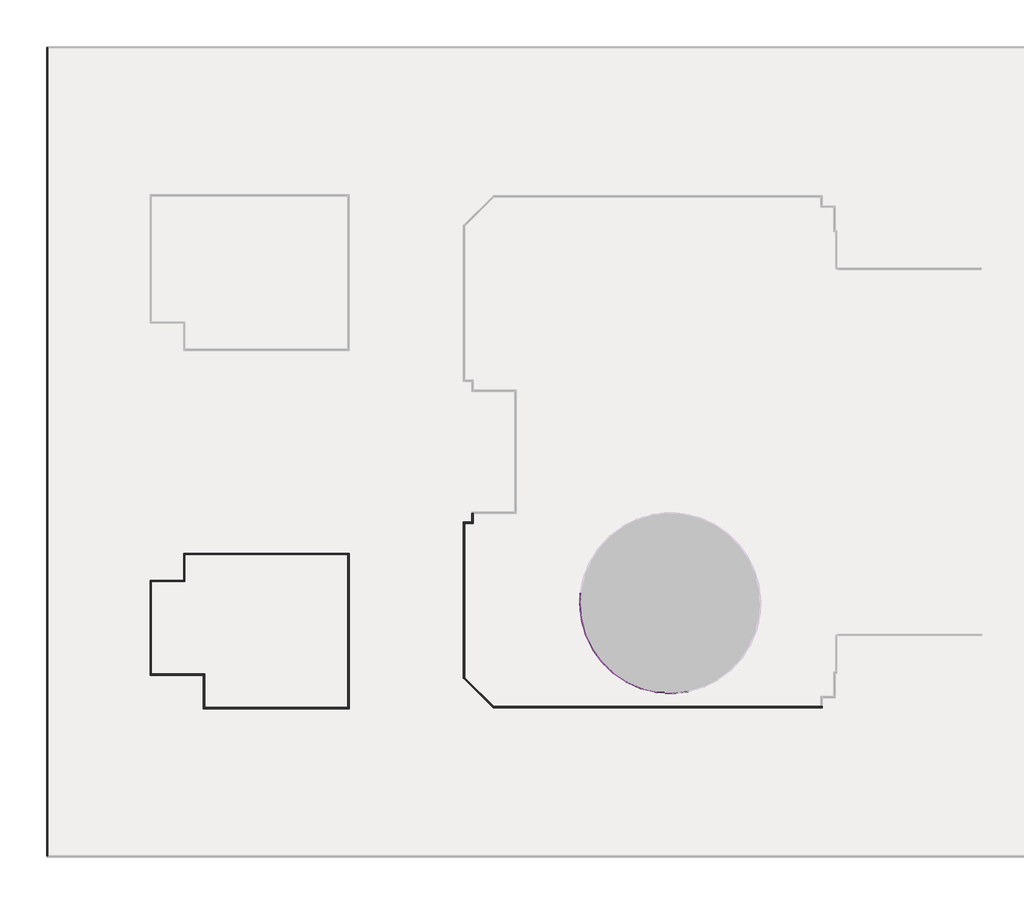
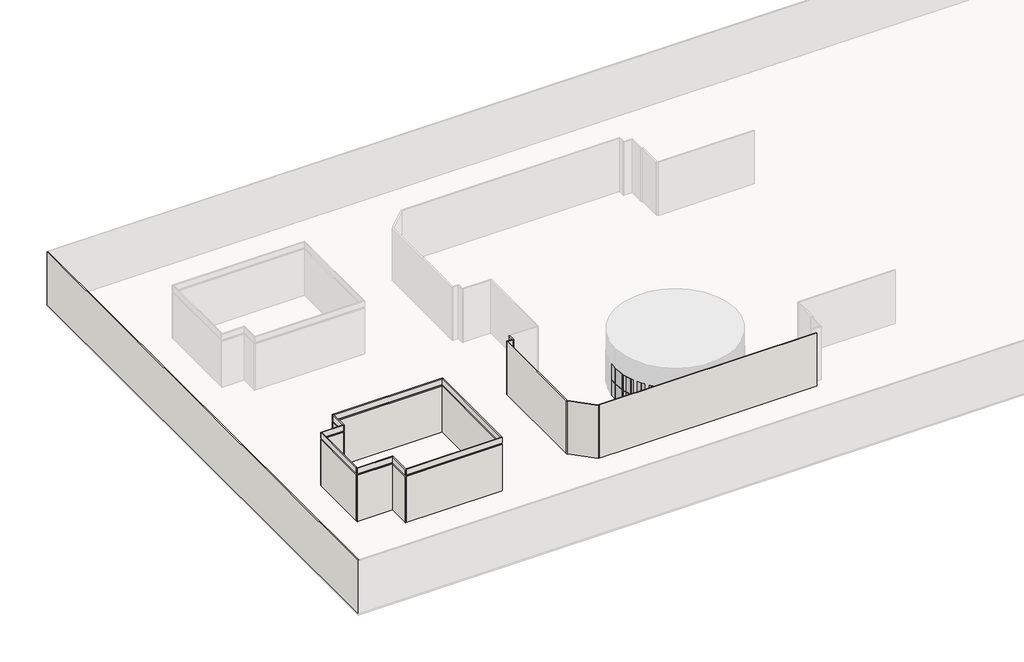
# One storey, part 1 of 4: 28 members, 22 plates, 14 walls.
"""IFC4 building model written with IfcOpenShell, lengths in millimetres."""

from ifc_helpers import new_model, si_unit, origin, place, context, project, spatial, faceted_brep, transform, mapped, element, save
from components import member_37831322, member_0f460398, member_e3690c8c, member_018dfd5b, plate_d439ce56, plate_01dbb522, plate_4c41d92a, plate_ebbde56a, plate_f02ba564, plate_a57f398c

model = new_model("IFC4")

# Units and contexts
model_context = context("Model", 3, world=origin())
ifc_project = project(units=[si_unit("LENGTHUNIT", "METRE", prefix="MILLI")], contexts=[model_context])

# Site, building, storey
site = spatial("IfcSite", under=ifc_project)
building = spatial("IfcBuilding", under=site)
storey = spatial("IfcBuildingStorey", under=building, Name="樓層 1", Elevation=0.0)

# Members
placement = place(None, origin())
member_shape = member_37831322(model_context)
element("IfcMember", 1, ObjectType="圓形豎框 : 25mm 半徑", at=placement, inside=storey, context=model_context, shape_type="MappedRepresentation", body=[
    mapped(member_shape, transform((-21690.7402424, -18858.604828, 2800.0), x_axis=(0.17664179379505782, -0.9842752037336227, 0.0), y_axis=(-0.9842752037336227, -0.17664179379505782, 0.0), z_axis=(0.0, 0.0, -1.0))),
])
element("IfcMember", 2, ObjectType="圓形豎框 : 25mm 半徑", at=placement, inside=storey, context=model_context, shape_type="MappedRepresentation", body=[
    mapped(member_shape, transform((-21216.9409052, -20595.1284207, 2800.0), x_axis=(0.3477282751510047, -0.9375953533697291, 0.0), y_axis=(-0.9375953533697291, -0.3477282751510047, 0.0), z_axis=(0.0, 0.0, -1.0))),
])
element("IfcMember", 3, ObjectType="圓形豎框 : 25mm 半徑", at=placement, inside=storey, context=model_context, shape_type="MappedRepresentation", body=[
    mapped(member_shape, transform((-20443.8493238, -22220.6527689, 2800.0), x_axis=(0.5078788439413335, -0.8614285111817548, 0.0), y_axis=(-0.8614285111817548, -0.5078788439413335, 0.0), z_axis=(0.0, 0.0, -1.0))),
])
element("IfcMember", 4, ObjectType="圓形豎框 : 25mm 半徑", at=placement, inside=storey, context=model_context, shape_type="MappedRepresentation", body=[
    mapped(member_shape, transform((-19395.7789131, -23684.0557942, 2800.0), x_axis=(0.6520568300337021, -0.7581700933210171, 0.0), y_axis=(-0.7581700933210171, -0.6520568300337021, 0.0), z_axis=(0.0, 0.0, -1.0))),
])
element("IfcMember", 5, ObjectType="圓形豎框 : 25mm 半徑", at=placement, inside=storey, context=model_context, shape_type="MappedRepresentation", body=[
    mapped(member_shape, transform((-18105.6910608, -24939.3140677, 2800.0), x_axis=(0.7757278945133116, -0.6310675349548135, 0.0), y_axis=(-0.6310675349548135, -0.7757278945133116, 0.0), z_axis=(0.0, 0.0, -1.0))),
])
element("IfcMember", 6, ObjectType="圓形豎框 : 25mm 半徑", at=placement, inside=storey, context=model_context, shape_type="MappedRepresentation", body=[
    mapped(member_shape, transform((-16614.158504, -25946.9502282, 2800.0), x_axis=(0.8750026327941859, -0.48411815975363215, 0.0), y_axis=(-0.48411815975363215, -0.8750026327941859, 0.0), z_axis=(0.0, 0.0, -1.0))),
])
element("IfcMember", 7, ObjectType="圓形豎框 : 25mm 半徑", at=placement, inside=storey, context=model_context, shape_type="MappedRepresentation", body=[
    mapped(member_shape, transform((-14968.0893339, -26675.2745291, 2800.0), x_axis=(0.9467588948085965, -0.32194346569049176, 0.0), y_axis=(-0.32194346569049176, -0.9467588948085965, 0.0), z_axis=(0.0, 0.0, -1.0))),
])
element("IfcMember", 8, ObjectType="圓形豎框 : 25mm 半徑", at=placement, inside=storey, context=model_context, shape_type="MappedRepresentation", body=[
    mapped(member_shape, transform((-13219.2517551, -27101.3814677, 2800.0), x_axis=(0.9887399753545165, -0.14964378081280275, 0.0), y_axis=(-0.14964378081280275, -0.9887399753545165, 0.0), z_axis=(0.0, 0.0, -1.0))),
])
element("IfcMember", 9, ObjectType="圓形豎框 : 25mm 半徑", at=placement, inside=storey, context=model_context, shape_type="MappedRepresentation", body=[
    mapped(member_shape, transform((-11422.645997, -27211.8701546, 2800.0), x_axis=(0.9996255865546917, 0.027362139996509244, 0.0), y_axis=(0.027362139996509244, -0.9996255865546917, 0.0), z_axis=(0.0, 0.0, -1.0))),
])
member_2_shape = member_0f460398(model_context)
element("IfcMember", 10, ObjectType="圓形豎框 : 25mm 半徑", at=placement, inside=storey, context=model_context, shape_type="MappedRepresentation", body=[
    mapped(member_2_shape, transform((-21223.5214516, -20571.0100375, 2800.0), x_axis=(0.0, 0.0, 1.0), y_axis=(-0.9647353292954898, -0.2632218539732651, 0.0), z_axis=(0.2632218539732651, -0.9647353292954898, 0.0))),
])
element("IfcMember", 11, ObjectType="圓形豎框 : 25mm 半徑", at=placement, inside=storey, context=model_context, shape_type="MappedRepresentation", body=[
    mapped(member_2_shape, transform((-20454.5867068, -22198.0760419, 2800.0), x_axis=(0.0, 0.0, 1.0), y_axis=(-0.9030690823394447, -0.42949532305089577, 0.0), z_axis=(0.42949532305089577, -0.9030690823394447, 0.0))),
])
element("IfcMember", 12, ObjectType="圓形豎框 : 25mm 半徑", at=placement, inside=storey, context=model_context, shape_type="MappedRepresentation", body=[
    mapped(member_2_shape, transform((-19410.3354466, -23663.7307522, 2800.0), x_axis=(0.0, 0.0, 1.0), y_axis=(-0.8130016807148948, -0.5822613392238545, 0.0), z_axis=(0.5822613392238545, -0.8130016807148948, 0.0))),
])
element("IfcMember", 13, ObjectType="圓形豎框 : 25mm 半徑", at=placement, inside=storey, context=model_context, shape_type="MappedRepresentation", body=[
    mapped(member_2_shape, transform((-18123.6089476, -24921.8799251, 2800.0), x_axis=(0.0, 0.0, 1.0), y_axis=(-0.6973657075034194, -0.7167154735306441, 0.0), z_axis=(0.716715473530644, -0.6973657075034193, 0.0))),
])
element("IfcMember", 14, ObjectType="圓形豎框 : 25mm 半徑", at=placement, inside=storey, context=model_context, shape_type="MappedRepresentation", body=[
    mapped(member_2_shape, transform((-16634.8742339, -25932.9552816, 2800.0), x_axis=(0.0, 0.0, 1.0), y_axis=(-0.559797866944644, -0.8286291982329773, 0.0), z_axis=(0.8286291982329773, -0.559797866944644, 0.0))),
])
element("IfcMember", 15, ObjectType="圓形豎框 : 25mm 半徑", at=placement, inside=storey, context=model_context, shape_type="MappedRepresentation", body=[
    mapped(member_2_shape, transform((-14990.9514057, -26665.1589138, 2800.0), x_axis=(0.0, 0.0, 1.0), y_axis=(-0.4046246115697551, -0.9144828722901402, 0.0), z_axis=(0.9144828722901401, -0.40462461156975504, 0.0))),
])
element("IfcMember", 16, ObjectType="圓形豎框 : 25mm 半徑", at=placement, inside=storey, context=model_context, shape_type="MappedRepresentation", body=[
    mapped(member_2_shape, transform((-13243.5411659, -27095.4633158, 2800.0), x_axis=(0.0, 0.0, 1.0), y_axis=(-0.23672607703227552, -0.9715764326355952, 0.0), z_axis=(0.9715764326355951, -0.2367260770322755, 0.0))),
])
element("IfcMember", 17, ObjectType="圓形豎框 : 25mm 半徑", at=placement, inside=storey, context=model_context, shape_type="MappedRepresentation", body=[
    mapped(member_2_shape, transform((-11447.5988548, -27210.3355895, 2800.0), x_axis=(0.0, 0.0, 1.0), y_axis=(-0.06138260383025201, -0.9981143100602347, 0.0), z_axis=(0.9981143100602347, -0.06138260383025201, 0.0))),
])
element("IfcMember", 18, ObjectType="圓形豎框 : 25mm 半徑", at=placement, inside=storey, context=model_context, shape_type="MappedRepresentation", body=[
    mapped(member_shape, transform((-21690.7402424, -18858.604828, 0.0), x_axis=(0.17664179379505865, -0.9842752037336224, 0.0), y_axis=(-0.9842752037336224, -0.17664179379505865, 0.0), z_axis=(0.0, 0.0, -1.0))),
])
element("IfcMember", 19, ObjectType="圓形豎框 : 25mm 半徑", at=placement, inside=storey, context=model_context, shape_type="MappedRepresentation", body=[
    mapped(member_shape, transform((-21216.9409052, -20595.1284207, 0.0), x_axis=(0.3477282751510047, -0.9375953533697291, 0.0), y_axis=(-0.9375953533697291, -0.3477282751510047, 0.0), z_axis=(0.0, 0.0, -1.0))),
])
element("IfcMember", 20, ObjectType="圓形豎框 : 25mm 半徑", at=placement, inside=storey, context=model_context, shape_type="MappedRepresentation", body=[
    mapped(member_shape, transform((-20443.8493238, -22220.6527689, 0.0), x_axis=(0.5078788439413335, -0.8614285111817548, 0.0), y_axis=(-0.8614285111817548, -0.5078788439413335, 0.0), z_axis=(0.0, 0.0, -1.0))),
])
element("IfcMember", 21, ObjectType="圓形豎框 : 25mm 半徑", at=placement, inside=storey, context=model_context, shape_type="MappedRepresentation", body=[
    mapped(member_shape, transform((-19395.7789131, -23684.0557942, 0.0), x_axis=(0.6520568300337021, -0.7581700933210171, 0.0), y_axis=(-0.7581700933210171, -0.6520568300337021, 0.0), z_axis=(0.0, 0.0, -1.0))),
])
element("IfcMember", 22, ObjectType="圓形豎框 : 25mm 半徑", at=placement, inside=storey, context=model_context, shape_type="MappedRepresentation", body=[
    mapped(member_shape, transform((-18105.6910608, -24939.3140677, 0.0), x_axis=(0.7757278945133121, -0.6310675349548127, 0.0), y_axis=(-0.6310675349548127, -0.7757278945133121, 0.0), z_axis=(0.0, 0.0, -1.0))),
])
element("IfcMember", 23, ObjectType="圓形豎框 : 25mm 半徑", at=placement, inside=storey, context=model_context, shape_type="MappedRepresentation", body=[
    mapped(member_shape, transform((-16614.158504, -25946.9502282, 0.0), x_axis=(0.8750026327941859, -0.48411815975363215, 0.0), y_axis=(-0.48411815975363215, -0.8750026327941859, 0.0), z_axis=(0.0, 0.0, -1.0))),
])
element("IfcMember", 24, ObjectType="圓形豎框 : 25mm 半徑", at=placement, inside=storey, context=model_context, shape_type="MappedRepresentation", body=[
    mapped(member_shape, transform((-14968.0893339, -26675.2745291, 0.0), x_axis=(0.9467588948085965, -0.32194346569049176, 0.0), y_axis=(-0.32194346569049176, -0.9467588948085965, 0.0), z_axis=(0.0, 0.0, -1.0))),
])
element("IfcMember", 25, ObjectType="圓形豎框 : 25mm 半徑", at=placement, inside=storey, context=model_context, shape_type="MappedRepresentation", body=[
    mapped(member_shape, transform((-13219.2517551, -27101.3814677, 0.0), x_axis=(0.9887399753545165, -0.14964378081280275, 0.0), y_axis=(-0.14964378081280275, -0.9887399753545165, 0.0), z_axis=(0.0, 0.0, -1.0))),
])
element("IfcMember", 26, ObjectType="圓形豎框 : 25mm 半徑", at=placement, inside=storey, context=model_context, shape_type="MappedRepresentation", body=[
    mapped(member_shape, transform((-11422.645997, -27211.8701546, 0.0), x_axis=(0.9996255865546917, 0.027362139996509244, 0.0), y_axis=(0.027362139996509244, -0.9996255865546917, 0.0), z_axis=(0.0, 0.0, -1.0))),
])
member_3_shape = member_e3690c8c(model_context)
element("IfcMember", 27, ObjectType="圓形豎框 : 25mm 半徑", at=placement, inside=storey, context=model_context, shape_type="MappedRepresentation", body=[
    mapped(member_3_shape, transform((-21692.9569965, -18833.7033019, 2800.0), x_axis=(0.0, 0.0, 1.0), y_axis=(-0.9960610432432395, -0.08867016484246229, 0.0), z_axis=(0.08867016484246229, -0.9960610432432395, 0.0))),
])
member_4_shape = member_018dfd5b(model_context)
element("IfcMember", 28, ObjectType="圓形豎框 : 25mm 半徑", at=placement, inside=storey, context=model_context, shape_type="MappedRepresentation", body=[
    mapped(member_4_shape, transform((-21850.3465391, -17065.6949502, 2800.0), x_axis=(0.0, 0.0, 1.0), y_axis=(-0.9981143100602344, 0.06138260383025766, 0.0), z_axis=(-0.06138260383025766, -0.9981143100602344, 0.0))),
])

# Plates
plate_shape = plate_d439ce56(model_context)
element("IfcPlate", 29, ObjectType="系統嵌板 : 玻璃 1.0cm", at=placement, inside=storey, context=model_context, shape_type="MappedRepresentation", body=[
    mapped(plate_shape, transform((-21771.6517678, -17949.699126, 0.0), x_axis=(0.08867016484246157, -0.9960610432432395, 0.0), y_axis=(0.9960610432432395, 0.08867016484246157, 0.0), z_axis=(0.0, 0.0, 1.0))),
])
plate_2_shape = plate_01dbb522(model_context)
element("IfcPlate", 30, ObjectType="系統嵌板 : 玻璃 1.0cm", at=placement, inside=storey, context=model_context, shape_type="MappedRepresentation", body=[
    mapped(plate_2_shape, transform((-21453.8405738, -19726.8666244, 0.0), x_axis=(0.2632218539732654, -0.9647353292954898, 0.0), y_axis=(0.9647353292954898, 0.2632218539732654, 0.0), z_axis=(0.0, 0.0, 1.0))),
])
element("IfcPlate", 31, ObjectType="系統嵌板 : 玻璃 1.0cm", at=placement, inside=storey, context=model_context, shape_type="MappedRepresentation", body=[
    mapped(plate_2_shape, transform((-20830.3951145, -21407.8905948, 0.0), x_axis=(0.42949532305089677, -0.9030690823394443, 0.0), y_axis=(0.9030690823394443, 0.42949532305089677, 0.0), z_axis=(0.0, 0.0, 1.0))),
])
element("IfcPlate", 32, ObjectType="系統嵌板 : 玻璃 1.0cm", at=placement, inside=storey, context=model_context, shape_type="MappedRepresentation", body=[
    mapped(plate_2_shape, transform((-19919.8141184, -22952.3542816, 0.0), x_axis=(0.5822613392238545, -0.8130016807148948, 0.0), y_axis=(0.8130016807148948, 0.5822613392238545, 0.0), z_axis=(0.0, 0.0, 1.0))),
])
element("IfcPlate", 33, ObjectType="系統嵌板 : 玻璃 1.0cm", at=placement, inside=storey, context=model_context, shape_type="MappedRepresentation", body=[
    mapped(plate_2_shape, transform((-18750.734987, -24311.684931, 0.0), x_axis=(0.7167154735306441, -0.6973657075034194, 0.0), y_axis=(0.6973657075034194, 0.7167154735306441, 0.0), z_axis=(0.0, 0.0, 1.0))),
])
element("IfcPlate", 34, ObjectType="系統嵌板 : 玻璃 1.0cm", at=placement, inside=storey, context=model_context, shape_type="MappedRepresentation", body=[
    mapped(plate_2_shape, transform((-17359.9247824, -25443.132148, 0.0), x_axis=(0.8286291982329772, -0.5597978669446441, 0.0), y_axis=(0.5597978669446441, 0.8286291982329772, 0.0), z_axis=(0.0, 0.0, 1.0))),
])
element("IfcPlate", 35, ObjectType="系統嵌板 : 玻璃 1.0cm", at=placement, inside=storey, context=model_context, shape_type="MappedRepresentation", body=[
    mapped(plate_2_shape, transform((-15791.1239189, -26311.1123787, 0.0), x_axis=(0.9144828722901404, -0.4046246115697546, 0.0), y_axis=(0.4046246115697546, 0.9144828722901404, 0.0), z_axis=(0.0, 0.0, 1.0))),
])
element("IfcPlate", 36, ObjectType="系統嵌板 : 玻璃 1.0cm", at=placement, inside=storey, context=model_context, shape_type="MappedRepresentation", body=[
    mapped(plate_2_shape, transform((-14093.6705445, -26888.3279984, 0.0), x_axis=(0.9715764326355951, -0.2367260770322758, 0.0), y_axis=(0.2367260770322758, 0.9715764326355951, 0.0), z_axis=(0.0, 0.0, 1.0))),
])
element("IfcPlate", 37, ObjectType="系統嵌板 : 玻璃 1.0cm", at=placement, inside=storey, context=model_context, shape_type="MappedRepresentation", body=[
    mapped(plate_2_shape, transform((-12320.9488761, -27156.6258112, 0.0), x_axis=(0.9981143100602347, -0.061382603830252, 0.0), y_axis=(0.061382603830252, 0.9981143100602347, 0.0), z_axis=(0.0, 0.0, 1.0))),
])
element("IfcPlate", 38, ObjectType="系統嵌板 : 玻璃 1.0cm", at=placement, inside=storey, context=model_context, shape_type="MappedRepresentation", body=[
    mapped(plate_2_shape, transform((-10528.7102878, -27107.5679601, 0.0), x_axis=(0.9932618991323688, 0.11589132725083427, 0.0), y_axis=(-0.11589132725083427, 0.9932618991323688, 0.0), z_axis=(0.0, 0.0, 1.0))),
])
plate_3_shape = plate_4c41d92a(model_context)
element("IfcPlate", 39, ObjectType="系統嵌板 : 玻璃 1.0cm", at=placement, inside=storey, context=model_context, shape_type="MappedRepresentation", body=[
    mapped(plate_3_shape, transform((-21812.8704999, -16456.3142996, 0.0), x_axis=(-0.061382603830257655, -0.9981143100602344, 0.0), y_axis=(0.9981143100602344, -0.061382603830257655, 0.0), z_axis=(0.0, 0.0, 1.0))),
])
plate_4_shape = plate_ebbde56a(model_context)
element("IfcPlate", 40, ObjectType="系統嵌板 : 玻璃 1.0cm", at=placement, inside=storey, context=model_context, shape_type="MappedRepresentation", body=[
    mapped(plate_4_shape, transform((-21771.6517678, -17949.699126, 2825.0), x_axis=(0.08867016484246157, -0.9960610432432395, 0.0), y_axis=(0.9960610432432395, 0.08867016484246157, 0.0), z_axis=(0.0, 0.0, 1.0))),
])
plate_5_shape = plate_f02ba564(model_context)
element("IfcPlate", 41, ObjectType="系統嵌板 : 玻璃 1.0cm", at=placement, inside=storey, context=model_context, shape_type="MappedRepresentation", body=[
    mapped(plate_5_shape, transform((-21453.8405738, -19726.8666244, 2825.0), x_axis=(0.2632218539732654, -0.9647353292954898, 0.0), y_axis=(0.9647353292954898, 0.2632218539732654, 0.0), z_axis=(0.0, 0.0, 1.0))),
])
element("IfcPlate", 42, ObjectType="系統嵌板 : 玻璃 1.0cm", at=placement, inside=storey, context=model_context, shape_type="MappedRepresentation", body=[
    mapped(plate_5_shape, transform((-20830.3951145, -21407.8905948, 2825.0), x_axis=(0.42949532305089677, -0.9030690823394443, 0.0), y_axis=(0.9030690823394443, 0.42949532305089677, 0.0), z_axis=(0.0, 0.0, 1.0))),
])
element("IfcPlate", 43, ObjectType="系統嵌板 : 玻璃 1.0cm", at=placement, inside=storey, context=model_context, shape_type="MappedRepresentation", body=[
    mapped(plate_5_shape, transform((-19919.8141184, -22952.3542816, 2825.0), x_axis=(0.5822613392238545, -0.8130016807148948, 0.0), y_axis=(0.8130016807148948, 0.5822613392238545, 0.0), z_axis=(0.0, 0.0, 1.0))),
])
element("IfcPlate", 44, ObjectType="系統嵌板 : 玻璃 1.0cm", at=placement, inside=storey, context=model_context, shape_type="MappedRepresentation", body=[
    mapped(plate_5_shape, transform((-18750.734987, -24311.684931, 2825.0), x_axis=(0.7167154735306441, -0.6973657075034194, 0.0), y_axis=(0.6973657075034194, 0.7167154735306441, 0.0), z_axis=(0.0, 0.0, 1.0))),
])
element("IfcPlate", 45, ObjectType="系統嵌板 : 玻璃 1.0cm", at=placement, inside=storey, context=model_context, shape_type="MappedRepresentation", body=[
    mapped(plate_5_shape, transform((-17359.9247824, -25443.132148, 2825.0), x_axis=(0.8286291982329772, -0.5597978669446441, 0.0), y_axis=(0.5597978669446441, 0.8286291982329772, 0.0), z_axis=(0.0, 0.0, 1.0))),
])
element("IfcPlate", 46, ObjectType="系統嵌板 : 玻璃 1.0cm", at=placement, inside=storey, context=model_context, shape_type="MappedRepresentation", body=[
    mapped(plate_5_shape, transform((-15791.1239189, -26311.1123787, 2825.0), x_axis=(0.9144828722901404, -0.4046246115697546, 0.0), y_axis=(0.4046246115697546, 0.9144828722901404, 0.0), z_axis=(0.0, 0.0, 1.0))),
])
element("IfcPlate", 47, ObjectType="系統嵌板 : 玻璃 1.0cm", at=placement, inside=storey, context=model_context, shape_type="MappedRepresentation", body=[
    mapped(plate_5_shape, transform((-14093.6705445, -26888.3279984, 2825.0), x_axis=(0.9715764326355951, -0.2367260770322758, 0.0), y_axis=(0.2367260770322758, 0.9715764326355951, 0.0), z_axis=(0.0, 0.0, 1.0))),
])
element("IfcPlate", 48, ObjectType="系統嵌板 : 玻璃 1.0cm", at=placement, inside=storey, context=model_context, shape_type="MappedRepresentation", body=[
    mapped(plate_5_shape, transform((-12320.9488761, -27156.6258112, 2825.0), x_axis=(0.9981143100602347, -0.061382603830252, 0.0), y_axis=(0.061382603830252, 0.9981143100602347, 0.0), z_axis=(0.0, 0.0, 1.0))),
])
element("IfcPlate", 49, ObjectType="系統嵌板 : 玻璃 1.0cm", at=placement, inside=storey, context=model_context, shape_type="MappedRepresentation", body=[
    mapped(plate_5_shape, transform((-10528.7102878, -27107.5679601, 2825.0), x_axis=(0.9932618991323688, 0.11589132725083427, 0.0), y_axis=(-0.11589132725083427, 0.9932618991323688, 0.0), z_axis=(0.0, 0.0, 1.0))),
])
plate_6_shape = plate_a57f398c(model_context)
element("IfcPlate", 50, ObjectType="系統嵌板 : 玻璃 1.0cm", at=placement, inside=storey, context=model_context, shape_type="MappedRepresentation", body=[
    mapped(plate_6_shape, transform((-21812.8704999, -16456.3142996, 2825.0), x_axis=(-0.061382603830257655, -0.9981143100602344, 0.0), y_axis=(0.9981143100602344, -0.061382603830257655, 0.0), z_axis=(0.0, 0.0, 1.0))),
])

# Walls
element("IfcWall", 51, ObjectType="RC 牆 15cm", at=placement, inside=storey, context=model_context, shape_type="Brep", body=[
    faceted_brep([(-81591.2230426, -45467.0932876, 0.0), (-81591.2230426, 45327.9067124, 0.0), (-81591.2230426, 45327.9067124, 4250.0), (-81591.2230426, 45327.9067124, 4500.0), (-81591.2230426, 45327.9067124, 8250.0), (-81591.2230426, 45327.9067124, 8500.0), (-81591.2230426, 45327.9067124, 9500.0), (-81591.2230426, -45467.0932876, 9500.0), (-81591.2230426, -45467.0932876, 8500.0), (-81591.2230426, -45467.0932876, 8250.0), (-81591.2230426, -45467.0932876, 4500.0), (-81591.2230426, -45467.0932876, 4250.0), (-81741.2230426, -45467.0932876, 0.0), (-81741.2230426, -45467.0932876, 9500.0), (-81741.2230426, 45327.9067124, 9500.0), (-81741.2230426, 45327.9067124, 0.0)], [[[0, 1, 2, 3, 4, 5, 6, 7, 8, 9, 10, 11]], [[12, 13, 14, 15]], [[1, 0, 12, 15]], [[7, 6, 14, 13]], [[0, 11, 10, 9, 8, 7, 13, 12]], [[6, 5, 4, 3, 2, 1, 15, 14]]]),
])
element("IfcWall", 52, ObjectType="RC 牆 15cm", at=placement, inside=storey, context=model_context, shape_type="Brep", body=[
    faceted_brep([(-66356.2230426, -11601.5828624, 0.0), (-66356.2230426, -14494.0932876, 0.0), (-66356.2230426, -14644.0932876, 0.0), (-66356.2230426, -14644.0932876, 8250.0), (-66356.2230426, -14494.0932876, 8250.0), (-66356.2230426, -11601.5828624, 8250.0), (-66356.2230426, -11601.5828624, 4500.0), (-66356.2230426, -11601.5828624, 4250.0), (-66206.2230426, -14644.0932876, 0.0), (-66206.2230426, -11601.5828624, 0.0), (-66206.2230426, -11601.5828624, 8250.0), (-66206.2230426, -14644.0932876, 8250.0)], [[[0, 1, 2, 3, 4, 5, 6, 7]], [[8, 9, 10, 11]], [[2, 1, 0, 9, 8]], [[2, 8, 11, 3]], [[9, 0, 7, 6, 5, 10]], [[5, 4, 3, 11, 10]]]),
    faceted_brep([(-66356.2230426, -14644.0932876, 9500.0), (-66356.2230426, -14494.0932876, 9500.0), (-66356.2230426, -11601.5828624, 9500.0), (-66356.2230426, -11601.5828624, 8500.0), (-66356.2230426, -14494.0932876, 8500.0), (-66356.2230426, -14644.0932876, 8500.0), (-66206.2230426, -11601.5828624, 9500.0), (-66206.2230426, -14644.0932876, 9500.0), (-66206.2230426, -14644.0932876, 8500.0), (-66206.2230426, -11601.5828624, 8500.0)], [[[0, 1, 2, 3, 4, 5]], [[6, 7, 8, 9]], [[2, 1, 0, 7, 6]], [[7, 0, 5, 8]], [[2, 6, 9, 3]], [[5, 4, 3, 9, 8]]]),
])
element("IfcWall", 53, ObjectType="RC 牆 15cm", at=placement, inside=storey, context=model_context, shape_type="Brep", body=[
    faceted_brep([(-66356.2230426, -14494.0932876, 0.0), (-70116.2230426, -14494.0932876, 0.0), (-70116.2230426, -14494.0932876, 4250.0), (-70116.2230426, -14494.0932876, 4500.0), (-70116.2230426, -14494.0932876, 8250.0), (-66356.2230426, -14494.0932876, 8250.0), (-66356.2230426, -14494.0932876, 4500.0), (-66356.2230426, -14494.0932876, 4250.0), (-70116.2230426, -14644.0932876, 0.0), (-69966.2230426, -14644.0932876, 0.0), (-66356.2230426, -14644.0932876, 0.0), (-66356.2230426, -14644.0932876, 8250.0), (-69966.2230426, -14644.0932876, 8250.0), (-70116.2230426, -14644.0932876, 8250.0), (-70116.2230426, -14644.0932876, 4500.0), (-70116.2230426, -14644.0932876, 4250.0)], [[[0, 1, 2, 3, 4, 5, 6, 7]], [[8, 9, 10, 11, 12, 13, 14, 15]], [[1, 0, 10, 9, 8]], [[10, 0, 7, 6, 5, 11]], [[1, 8, 15, 14, 13, 4, 3, 2]], [[5, 4, 13, 12, 11]]]),
    faceted_brep([(-70116.2230426, -14494.0932876, 9500.0), (-66356.2230426, -14494.0932876, 9500.0), (-66356.2230426, -14494.0932876, 8500.0), (-70116.2230426, -14494.0932876, 8500.0), (-66356.2230426, -14644.0932876, 9500.0), (-69966.2230426, -14644.0932876, 9500.0), (-70116.2230426, -14644.0932876, 9500.0), (-70116.2230426, -14644.0932876, 8500.0), (-69966.2230426, -14644.0932876, 8500.0), (-66356.2230426, -14644.0932876, 8500.0)], [[[0, 1, 2, 3]], [[4, 5, 6, 7, 8, 9]], [[1, 0, 6, 5, 4]], [[1, 4, 9, 2]], [[6, 0, 3, 7]], [[3, 2, 9, 8, 7]]]),
])
element("IfcWall", 54, ObjectType="RC 牆 15cm", at=placement, inside=storey, context=model_context, shape_type="Brep", body=[
    faceted_brep([(-70116.2230426, -14644.0932876, 0.0), (-70116.2230426, -25005.0932876, 0.0), (-70116.2230426, -25005.0932876, 4250.0), (-70116.2230426, -25005.0932876, 4500.0), (-70116.2230426, -25005.0932876, 8250.0), (-70116.2230426, -14644.0932876, 8250.0), (-70116.2230426, -14644.0932876, 4500.0), (-70116.2230426, -14644.0932876, 4250.0), (-69966.2230426, -25005.0932876, 0.0), (-69966.2230426, -14644.0932876, 0.0), (-69966.2230426, -14644.0932876, 8250.0), (-69966.2230426, -25005.0932876, 8250.0)], [[[0, 1, 2, 3, 4, 5, 6, 7]], [[8, 9, 10, 11]], [[1, 0, 9, 8]], [[9, 0, 7, 6, 5, 10]], [[1, 8, 11, 4, 3, 2]], [[5, 4, 11, 10]]]),
    faceted_brep([(-70116.2230426, -25005.0932876, 9500.0), (-70116.2230426, -14644.0932876, 9500.0), (-70116.2230426, -14644.0932876, 8500.0), (-70116.2230426, -25005.0932876, 8500.0), (-69966.2230426, -14644.0932876, 9500.0), (-69966.2230426, -25005.0932876, 9500.0), (-69966.2230426, -25005.0932876, 8500.0), (-69966.2230426, -14644.0932876, 8500.0)], [[[0, 1, 2, 3]], [[4, 5, 6, 7]], [[1, 0, 5, 4]], [[1, 4, 7, 2]], [[5, 0, 3, 6]], [[3, 2, 7, 6]]]),
])
element("IfcWall", 55, ObjectType="RC 牆 15cm", at=placement, inside=storey, context=model_context, shape_type="Brep", body=[
    faceted_brep([(-63996.109987, -25005.0932876, 0.0), (-69966.2230426, -25005.0932876, 0.0), (-70116.2230426, -25005.0932876, 0.0), (-70116.2230426, -25005.0932876, 4250.0), (-70116.2230426, -25005.0932876, 4500.0), (-70116.2230426, -25005.0932876, 8250.0), (-69966.2230426, -25005.0932876, 8250.0), (-63996.109987, -25005.0932876, 8250.0), (-70116.2230426, -25155.0932876, 0.0), (-64146.109987, -25155.0932876, 0.0), (-63996.109987, -25155.0932876, 0.0), (-63996.109987, -25155.0932876, 8250.0), (-64146.109987, -25155.0932876, 8250.0), (-70116.2230426, -25155.0932876, 8250.0), (-70116.2230426, -25155.0932876, 4500.0), (-70116.2230426, -25155.0932876, 4250.0)], [[[0, 1, 2, 3, 4, 5, 6, 7]], [[8, 9, 10, 11, 12, 13, 14, 15]], [[2, 1, 0, 10, 9, 8]], [[10, 0, 7, 11]], [[2, 8, 15, 14, 13, 5, 4, 3]], [[6, 5, 13, 12, 11, 7]]]),
    faceted_brep([(-70116.2230426, -25005.0932876, 9500.0), (-69966.2230426, -25005.0932876, 9500.0), (-63996.109987, -25005.0932876, 9500.0), (-63996.109987, -25005.0932876, 8500.0), (-69966.2230426, -25005.0932876, 8500.0), (-70116.2230426, -25005.0932876, 8500.0), (-63996.109987, -25155.0932876, 9500.0), (-64146.109987, -25155.0932876, 9500.0), (-70116.2230426, -25155.0932876, 9500.0), (-70116.2230426, -25155.0932876, 8500.0), (-64146.109987, -25155.0932876, 8500.0), (-63996.109987, -25155.0932876, 8500.0)], [[[0, 1, 2, 3, 4, 5]], [[6, 7, 8, 9, 10, 11]], [[2, 1, 0, 8, 7, 6]], [[2, 6, 11, 3]], [[8, 0, 5, 9]], [[5, 4, 3, 11, 10, 9]]]),
])
element("IfcWall", 56, ObjectType="RC 牆 15cm", at=placement, inside=storey, context=model_context, shape_type="Brep", body=[
    faceted_brep([(-63996.109987, -28942.0932876, 0.0), (-63996.109987, -28792.0932876, 0.0), (-63996.109987, -25155.0932876, 0.0), (-63996.109987, -25155.0932876, 8250.0), (-63996.109987, -28792.0932876, 8250.0), (-63996.109987, -28942.0932876, 8250.0), (-63996.109987, -28942.0932876, 4500.0), (-63996.109987, -28942.0932876, 4250.0), (-64146.109987, -25155.0932876, 0.0), (-64146.109987, -28942.0932876, 0.0), (-64146.109987, -28942.0932876, 4250.0), (-64146.109987, -28942.0932876, 4500.0), (-64146.109987, -28942.0932876, 8250.0), (-64146.109987, -25155.0932876, 8250.0), (-64146.109987, -25155.0932876, 4500.0), (-64146.109987, -25155.0932876, 4250.0)], [[[0, 1, 2, 3, 4, 5, 6, 7]], [[8, 9, 10, 11, 12, 13, 14, 15]], [[2, 1, 0, 9, 8]], [[2, 8, 15, 14, 13, 3]], [[9, 0, 7, 6, 5, 12, 11, 10]], [[4, 3, 13, 12, 5]]]),
    faceted_brep([(-63996.109987, -25155.0932876, 9500.0), (-63996.109987, -28792.0932876, 9500.0), (-63996.109987, -28942.0932876, 9500.0), (-63996.109987, -28942.0932876, 8500.0), (-63996.109987, -28792.0932876, 8500.0), (-63996.109987, -25155.0932876, 8500.0), (-64146.109987, -28942.0932876, 9500.0), (-64146.109987, -25155.0932876, 9500.0), (-64146.109987, -25155.0932876, 8500.0), (-64146.109987, -28942.0932876, 8500.0)], [[[0, 1, 2, 3, 4, 5]], [[6, 7, 8, 9]], [[2, 1, 0, 7, 6]], [[7, 0, 5, 8]], [[2, 6, 9, 3]], [[5, 4, 3, 9, 8]]]),
])
element("IfcWall", 57, ObjectType="RC 牆 15cm", at=placement, inside=storey, context=model_context, shape_type="Brep", body=[
    faceted_brep([(-63996.109987, -28942.0932876, 0.0), (-47776.2230426, -28942.0932876, 0.0), (-47776.2230426, -28942.0932876, 4250.0), (-47776.2230426, -28942.0932876, 4500.0), (-47776.2230426, -28942.0932876, 8250.0), (-63996.109987, -28942.0932876, 8250.0), (-63996.109987, -28942.0932876, 4500.0), (-63996.109987, -28942.0932876, 4250.0), (-47776.2230426, -28792.0932876, 0.0), (-47926.2230426, -28792.0932876, 0.0), (-63996.109987, -28792.0932876, 0.0), (-63996.109987, -28792.0932876, 8250.0), (-47926.2230426, -28792.0932876, 8250.0), (-47776.2230426, -28792.0932876, 8250.0), (-47776.2230426, -28792.0932876, 4500.0), (-47776.2230426, -28792.0932876, 4250.0)], [[[0, 1, 2, 3, 4, 5, 6, 7]], [[8, 9, 10, 11, 12, 13, 14, 15]], [[1, 0, 10, 9, 8]], [[1, 8, 15, 14, 13, 4, 3, 2]], [[10, 0, 7, 6, 5, 11]], [[5, 4, 13, 12, 11]]]),
    faceted_brep([(-47776.2230426, -28942.0932876, 9500.0), (-63996.109987, -28942.0932876, 9500.0), (-63996.109987, -28942.0932876, 8500.0), (-47776.2230426, -28942.0932876, 8500.0), (-63996.109987, -28792.0932876, 9500.0), (-47926.2230426, -28792.0932876, 9500.0), (-47776.2230426, -28792.0932876, 9500.0), (-47776.2230426, -28792.0932876, 8500.0), (-47926.2230426, -28792.0932876, 8500.0), (-63996.109987, -28792.0932876, 8500.0)], [[[0, 1, 2, 3]], [[4, 5, 6, 7, 8, 9]], [[1, 0, 6, 5, 4]], [[6, 0, 3, 7]], [[1, 4, 9, 2]], [[3, 2, 9, 8, 7]]]),
])
element("IfcWall", 58, ObjectType="RC 牆 15cm", at=placement, inside=storey, context=model_context, shape_type="Brep", body=[
    faceted_brep([(-47776.2230426, -28792.0932876, 0.0), (-47776.2230426, -11601.5828624, 0.0), (-47776.2230426, -11601.5828624, 4250.0), (-47776.2230426, -11601.5828624, 4500.0), (-47776.2230426, -11601.5828624, 8250.0), (-47776.2230426, -28792.0932876, 8250.0), (-47776.2230426, -28792.0932876, 4500.0), (-47776.2230426, -28792.0932876, 4250.0), (-47926.2230426, -11601.5828624, 0.0), (-47926.2230426, -28792.0932876, 0.0), (-47926.2230426, -28792.0932876, 8250.0), (-47926.2230426, -11601.5828624, 8250.0)], [[[0, 1, 2, 3, 4, 5, 6, 7]], [[8, 9, 10, 11]], [[1, 0, 9, 8]], [[9, 0, 7, 6, 5, 10]], [[1, 8, 11, 4, 3, 2]], [[5, 4, 11, 10]]]),
    faceted_brep([(-47776.2230426, -11601.5828624, 9500.0), (-47776.2230426, -28792.0932876, 9500.0), (-47776.2230426, -28792.0932876, 8500.0), (-47776.2230426, -11601.5828624, 8500.0), (-47926.2230426, -28792.0932876, 9500.0), (-47926.2230426, -11601.5828624, 9500.0), (-47926.2230426, -11601.5828624, 8500.0), (-47926.2230426, -28792.0932876, 8500.0)], [[[0, 1, 2, 3]], [[4, 5, 6, 7]], [[1, 0, 5, 4]], [[1, 4, 7, 2]], [[5, 0, 3, 6]], [[3, 2, 7, 6]]]),
])
element("IfcWall", 59, ObjectType="RC 牆 15cm", at=placement, inside=storey, context=model_context, shape_type="Brep", body=[
    faceted_brep([(-47776.2230426, -11451.5828624, 0.0), (-66356.2230426, -11451.5828624, 0.0), (-66356.2230426, -11451.5828624, 4250.0), (-66356.2230426, -11451.5828624, 4500.0), (-66356.2230426, -11451.5828624, 8250.0), (-47776.2230426, -11451.5828624, 8250.0), (-47776.2230426, -11451.5828624, 4500.0), (-47776.2230426, -11451.5828624, 4250.0), (-66356.2230426, -11601.5828624, 0.0), (-66206.2230426, -11601.5828624, 0.0), (-47926.2230426, -11601.5828624, 0.0), (-47776.2230426, -11601.5828624, 0.0), (-47776.2230426, -11601.5828624, 4250.0), (-47776.2230426, -11601.5828624, 4500.0), (-47776.2230426, -11601.5828624, 8250.0), (-47926.2230426, -11601.5828624, 8250.0), (-66206.2230426, -11601.5828624, 8250.0), (-66356.2230426, -11601.5828624, 8250.0), (-66356.2230426, -11601.5828624, 4500.0), (-66356.2230426, -11601.5828624, 4250.0)], [[[0, 1, 2, 3, 4, 5, 6, 7]], [[8, 9, 10, 11, 12, 13, 14, 15, 16, 17, 18, 19]], [[1, 0, 11, 10, 9, 8]], [[1, 8, 19, 18, 17, 4, 3, 2]], [[11, 0, 7, 6, 5, 14, 13, 12]], [[5, 4, 17, 16, 15, 14]]]),
    faceted_brep([(-66356.2230426, -11451.5828624, 9500.0), (-47776.2230426, -11451.5828624, 9500.0), (-47776.2230426, -11451.5828624, 8500.0), (-66356.2230426, -11451.5828624, 8500.0), (-47776.2230426, -11601.5828624, 9500.0), (-47926.2230426, -11601.5828624, 9500.0), (-66206.2230426, -11601.5828624, 9500.0), (-66356.2230426, -11601.5828624, 9500.0), (-66356.2230426, -11601.5828624, 8500.0), (-66206.2230426, -11601.5828624, 8500.0), (-47926.2230426, -11601.5828624, 8500.0), (-47776.2230426, -11601.5828624, 8500.0)], [[[0, 1, 2, 3]], [[4, 5, 6, 7, 8, 9, 10, 11]], [[1, 0, 7, 6, 5, 4]], [[7, 0, 3, 8]], [[1, 4, 11, 2]], [[3, 2, 11, 10, 9, 8]]]),
])
element("IfcWall", 60, ObjectType="RC 牆 15cm", at=placement, inside=storey, context=model_context, shape_type="Brep", body=[
    faceted_brep([(-33976.2230426, -6977.0932876, 0.0), (-33976.2230426, -7967.0932876, 0.0), (-33976.2230426, -8117.0932876, 0.0), (-33976.2230426, -8117.0932876, 9500.0), (-33976.2230426, -7967.0932876, 9500.0), (-33976.2230426, -6977.0932876, 9500.0), (-33976.2230426, -6977.0932876, 8500.0), (-33976.2230426, -6977.0932876, 8250.0), (-33976.2230426, -6977.0932876, 4500.0), (-33976.2230426, -6977.0932876, 4250.0), (-33826.2230426, -8117.0932876, 0.0), (-33826.2230426, -6977.0932876, 0.0), (-33826.2230426, -6977.0932876, 9500.0), (-33826.2230426, -8117.0932876, 9500.0)], [[[0, 1, 2, 3, 4, 5, 6, 7, 8, 9]], [[10, 11, 12, 13]], [[2, 1, 0, 11, 10]], [[5, 4, 3, 13, 12]], [[5, 12, 11, 0, 9, 8, 7, 6]], [[3, 2, 10, 13]]]),
])
element("IfcWall", 61, ObjectType="RC 牆 15cm", at=placement, inside=storey, context=model_context, shape_type="Brep", body=[
    faceted_brep([(-33976.2230426, -7967.0932876, 0.0), (-34956.2230426, -7967.0932876, 0.0), (-34956.2230426, -7967.0932876, 4250.0), (-34956.2230426, -7967.0932876, 4500.0), (-34956.2230426, -7967.0932876, 8250.0), (-34956.2230426, -7967.0932876, 8500.0), (-34956.2230426, -7967.0932876, 9500.0), (-33976.2230426, -7967.0932876, 9500.0), (-33976.2230426, -7967.0932876, 8500.0), (-33976.2230426, -7967.0932876, 8250.0), (-33976.2230426, -7967.0932876, 4500.0), (-33976.2230426, -7967.0932876, 4250.0), (-34956.2230426, -8117.0932876, 0.0), (-34806.2230426, -8117.0932876, 0.0), (-33976.2230426, -8117.0932876, 0.0), (-33976.2230426, -8117.0932876, 9500.0), (-34806.2230426, -8117.0932876, 9500.0), (-34956.2230426, -8117.0932876, 9500.0), (-34956.2230426, -8117.0932876, 8500.0), (-34956.2230426, -8117.0932876, 8250.0), (-34956.2230426, -8117.0932876, 4500.0), (-34956.2230426, -8117.0932876, 4250.0)], [[[0, 1, 2, 3, 4, 5, 6, 7, 8, 9, 10, 11]], [[12, 13, 14, 15, 16, 17, 18, 19, 20, 21]], [[1, 0, 14, 13, 12]], [[7, 6, 17, 16, 15]], [[7, 15, 14, 0, 11, 10, 9, 8]], [[1, 12, 21, 20, 19, 18, 17, 6, 5, 4, 3, 2]]]),
])
element("IfcWall", 62, ObjectType="RC 牆 15cm", at=placement, inside=storey, context=model_context, shape_type="Brep", body=[
    faceted_brep([(-34956.2230426, -8117.0932876, 0.0), (-34956.2230426, -25500.0305008, 0.0), (-34956.2230426, -25500.0305008, 4250.0), (-34956.2230426, -25500.0305008, 4500.0), (-34956.2230426, -25500.0305008, 8250.0), (-34956.2230426, -25500.0305008, 8500.0), (-34956.2230426, -25500.0305008, 9500.0), (-34956.2230426, -8117.0932876, 9500.0), (-34956.2230426, -8117.0932876, 8500.0), (-34956.2230426, -8117.0932876, 8250.0), (-34956.2230426, -8117.0932876, 4500.0), (-34956.2230426, -8117.0932876, 4250.0), (-34806.2230426, -25647.3114676, 0.0), (-34806.2230426, -25437.0932876, 0.0), (-34806.2230426, -8117.0932876, 0.0), (-34806.2230426, -8117.0932876, 9500.0), (-34806.2230426, -25437.0932876, 9500.0), (-34806.2230426, -25647.3114676, 9500.0), (-34806.2230426, -25647.3114676, 8500.0), (-34806.2230426, -25647.3114676, 8250.0), (-34806.2230426, -25647.3114676, 4500.0), (-34806.2230426, -25647.3114676, 4250.0)], [[[0, 1, 2, 3, 4, 5, 6, 7, 8, 9, 10, 11]], [[12, 13, 14, 15, 16, 17, 18, 19, 20, 21]], [[1, 0, 14, 13, 12]], [[7, 6, 17, 16, 15]], [[7, 15, 14, 0, 11, 10, 9, 8]], [[1, 12, 21, 20, 19, 18, 17, 6, 5, 4, 3, 2]]]),
])
element("IfcWall", 63, ObjectType="RC 牆 15cm", at=placement, inside=storey, context=model_context, shape_type="Brep", body=[
    faceted_brep([(-34806.2230426, -25647.3114676, 0.0), (-31557.5529427, -28837.0932876, 0.0), (-31557.5529427, -28837.0932876, 4250.0), (-31557.5529427, -28837.0932876, 4500.0), (-31557.5529427, -28837.0932876, 8250.0), (-31557.5529427, -28837.0932876, 8500.0), (-31557.5529427, -28837.0932876, 9500.0), (-34806.2230426, -25647.3114676, 9500.0), (-34806.2230426, -25647.3114676, 8500.0), (-34806.2230426, -25647.3114676, 8250.0), (-34806.2230426, -25647.3114676, 4500.0), (-34806.2230426, -25647.3114676, 4250.0), (-31343.4538118, -28837.0932876, 0.0), (-31496.2230426, -28687.0932876, 0.0), (-34806.2230426, -25437.0932876, 0.0), (-34806.2230426, -25437.0932876, 9500.0), (-31496.2230426, -28687.0932876, 9500.0), (-31343.4538118, -28837.0932876, 9500.0), (-31343.4538118, -28837.0932876, 8500.0), (-31343.4538118, -28837.0932876, 8250.0), (-31343.4538118, -28837.0932876, 4500.0), (-31343.4538118, -28837.0932876, 4250.0)], [[[0, 1, 2, 3, 4, 5, 6, 7, 8, 9, 10, 11]], [[12, 13, 14, 15, 16, 17, 18, 19, 20, 21]], [[1, 0, 14, 13, 12]], [[7, 6, 17, 16, 15]], [[7, 15, 14, 0, 11, 10, 9, 8]], [[1, 12, 21, 20, 19, 18, 17, 6, 5, 4, 3, 2]]]),
])
element("IfcWall", 64, ObjectType="RC 牆 15cm", at=placement, inside=storey, context=model_context, shape_type="Brep", body=[
    faceted_brep([(-31343.4538118, -28837.0932876, 0.0), (5373.7769574, -28837.0932876, 0.0), (5373.7769574, -28837.0932876, 4250.0), (5373.7769574, -28837.0932876, 4500.0), (5373.7769574, -28837.0932876, 8250.0), (5373.7769574, -28837.0932876, 8500.0), (5373.7769574, -28837.0932876, 9500.0), (-31343.4538118, -28837.0932876, 9500.0), (-31343.4538118, -28837.0932876, 8500.0), (-31343.4538118, -28837.0932876, 8250.0), (-31343.4538118, -28837.0932876, 4500.0), (-31343.4538118, -28837.0932876, 4250.0), (5373.7769574, -28687.0932876, 0.0), (5223.7769574, -28687.0932876, 0.0), (-31496.2230426, -28687.0932876, 0.0), (-31496.2230426, -28687.0932876, 9500.0), (5223.7769574, -28687.0932876, 9500.0), (5373.7769574, -28687.0932876, 9500.0), (5373.7769574, -28687.0932876, 8500.0), (5373.7769574, -28687.0932876, 8250.0), (5373.7769574, -28687.0932876, 4500.0), (5373.7769574, -28687.0932876, 4250.0)], [[[0, 1, 2, 3, 4, 5, 6, 7, 8, 9, 10, 11]], [[12, 13, 14, 15, 16, 17, 18, 19, 20, 21]], [[1, 0, 14, 13, 12]], [[7, 6, 17, 16, 15]], [[7, 15, 14, 0, 11, 10, 9, 8]], [[1, 12, 21, 20, 19, 18, 17, 6, 5, 4, 3, 2]]]),
])

save(model, "model.ifc")
